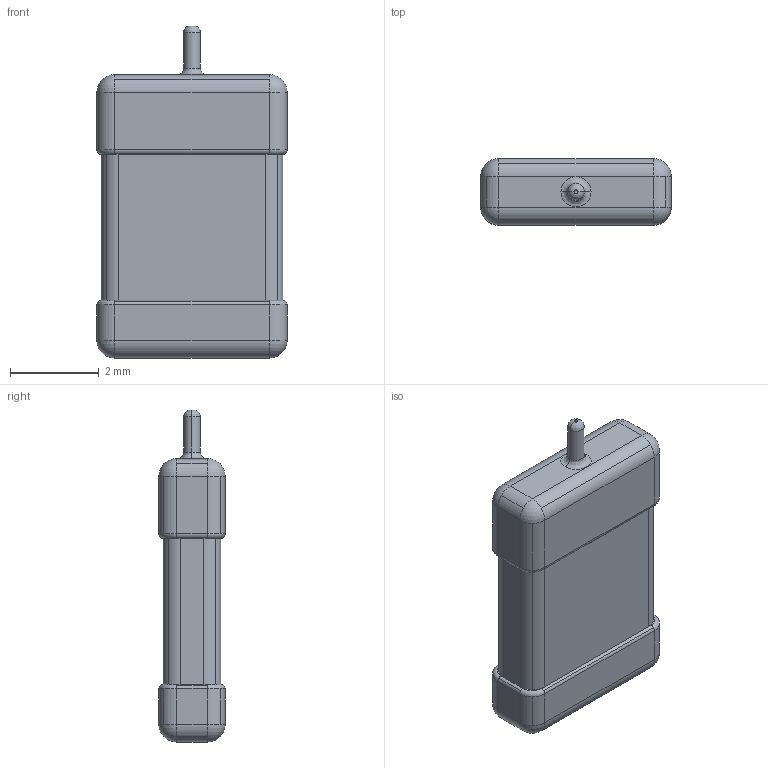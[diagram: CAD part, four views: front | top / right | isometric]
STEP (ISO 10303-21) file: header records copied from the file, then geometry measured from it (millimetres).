
FILE_DESCRIPTION((''),'2;1');
FILE_NAME('591D_D-case_15H.stp','2019-05-02T10:58:29',(''),(''),'AutoCAD STEP 2000i','AutoCAD 2000i',', , ');
FILE_SCHEMA(('CONFIG_CONTROL_DESIGN'));
Length unit declared in the file: millimetre
Products named in the file (2): 591D_D-CASE_15H; MODEL
Assembly tree (1 placements, depth 2):
  591D_D-CASE_15H
    MODEL
Bounding box: 4.3 x 1.5 x 7.5 mm (x, y, z)
Volume: 36.1 mm3; surface area: 78.5 mm2
Topology: 1 solids, 1 shells, 101 faces, 242 edges, 136 vertices
Faces by surface type: cylinder 58, plane 23, torus 8, sphere 8, bspline 4
Entity records: 3129 total; most frequent: CARTESIAN_POINT 649, DIRECTION 564, ORIENTED_EDGE 468, EDGE_CURVE 234, AXIS2_PLACEMENT_3D 231, VERTEX_POINT 136, CIRCLE 132, VECTOR 102
